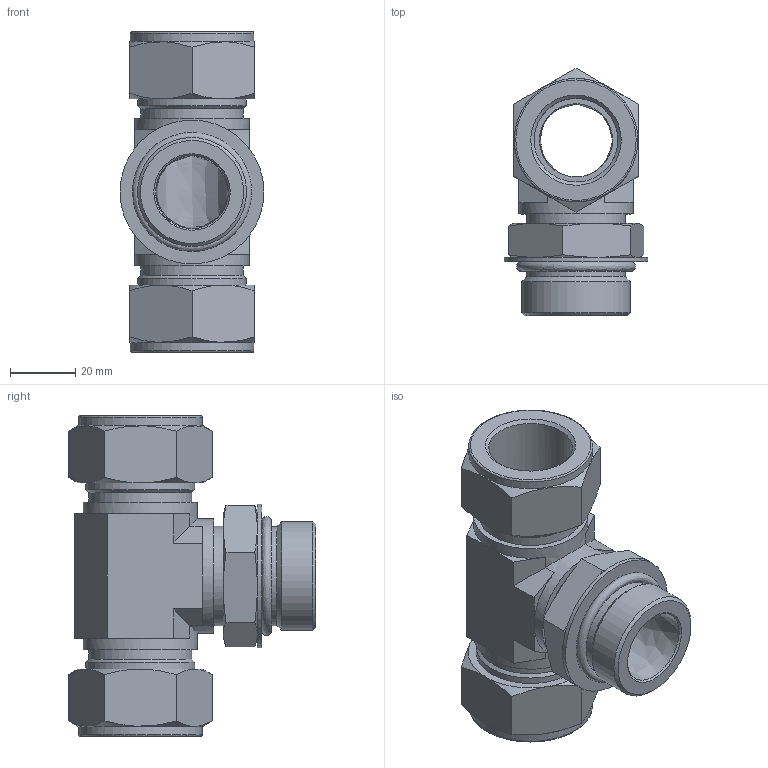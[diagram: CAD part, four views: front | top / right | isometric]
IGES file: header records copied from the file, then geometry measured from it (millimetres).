
Global section: file name: SPMBT-16-16U; native system: Autodesk Inventor 2016; preprocessor: unknown; author: DESIGNPC2; date: 20160312.162915; units: millimetre
Bounding box: 44 x 75.6 x 98.12 mm (x, y, z)
Volume: 82426.8 mm3; surface area: 34940.9 mm2
Topology: 4 solids, 4 shells, 132 faces, 328 edges, 212 vertices
Faces by surface type: bspline 132
